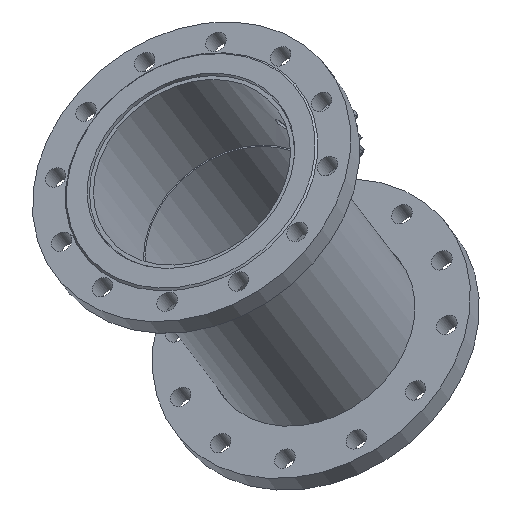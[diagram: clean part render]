
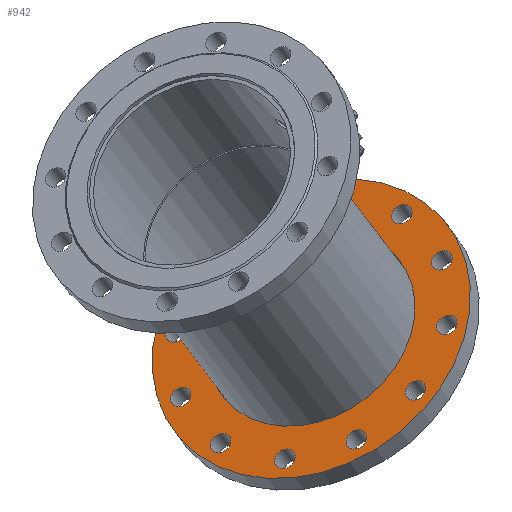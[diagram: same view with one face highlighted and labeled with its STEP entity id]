
A CAD part, isometric view. The second image highlights one B-rep face of the part: STEP entity #942.
In plain terms, the highlighted planar face has unit normal (-0.522, 0, 0.853) as drawn and (0, 0, -1) by its records, which use the part's own axes.
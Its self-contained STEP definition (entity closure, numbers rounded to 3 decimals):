
#942 = ADVANCED_FACE( '', ( #1897, #1898, #1899, #1900, #1901, #1902, #1903, #1904, #1905, #1906, #1907, #1908, #1909, #1910 ), #1911, .T. );
#1897 = FACE_BOUND( '', #5754, .T. );
#1898 = FACE_BOUND( '', #5755, .T. );
#1899 = FACE_BOUND( '', #5756, .T. );
#1900 = FACE_BOUND( '', #5757, .T. );
#1901 = FACE_BOUND( '', #5758, .T. );
#1902 = FACE_BOUND( '', #5759, .T. );
#1903 = FACE_BOUND( '', #5760, .T. );
#1904 = FACE_BOUND( '', #5761, .T. );
#1905 = FACE_BOUND( '', #5762, .T. );
#1906 = FACE_BOUND( '', #5763, .T. );
#1907 = FACE_BOUND( '', #5764, .T. );
#1908 = FACE_BOUND( '', #5765, .T. );
#1909 = FACE_BOUND( '', #5766, .T. );
#1910 = FACE_OUTER_BOUND( '', #5767, .T. );
#1911 = PLANE( '', #5768 );
#5754 = EDGE_LOOP( '', ( #7905 ) );
#5755 = EDGE_LOOP( '', ( #7906 ) );
#5756 = EDGE_LOOP( '', ( #7907 ) );
#5757 = EDGE_LOOP( '', ( #7908 ) );
#5758 = EDGE_LOOP( '', ( #7909 ) );
#5759 = EDGE_LOOP( '', ( #7910 ) );
#5760 = EDGE_LOOP( '', ( #7911 ) );
#5761 = EDGE_LOOP( '', ( #7912 ) );
#5762 = EDGE_LOOP( '', ( #7913 ) );
#5763 = EDGE_LOOP( '', ( #7914 ) );
#5764 = EDGE_LOOP( '', ( #7915 ) );
#5765 = EDGE_LOOP( '', ( #7916 ) );
#5766 = EDGE_LOOP( '', ( #7917 ) );
#5767 = EDGE_LOOP( '', ( #7918 ) );
#5768 = AXIS2_PLACEMENT_3D( '', #7919, #7920, #7921 );
#7905 = ORIENTED_EDGE( '', *, *, #8549, .F. );
#7906 = ORIENTED_EDGE( '', *, *, #8376, .F. );
#7907 = ORIENTED_EDGE( '', *, *, #8527, .F. );
#7908 = ORIENTED_EDGE( '', *, *, #8671, .F. );
#7909 = ORIENTED_EDGE( '', *, *, #8344, .F. );
#7910 = ORIENTED_EDGE( '', *, *, #8406, .F. );
#7911 = ORIENTED_EDGE( '', *, *, #8529, .F. );
#7912 = ORIENTED_EDGE( '', *, *, #8408, .F. );
#7913 = ORIENTED_EDGE( '', *, *, #8359, .F. );
#7914 = ORIENTED_EDGE( '', *, *, #8693, .F. );
#7915 = ORIENTED_EDGE( '', *, *, #8632, .F. );
#7916 = ORIENTED_EDGE( '', *, *, #8758, .F. );
#7917 = ORIENTED_EDGE( '', *, *, #8084, .T. );
#7918 = ORIENTED_EDGE( '', *, *, #8799, .F. );
#7919 = CARTESIAN_POINT( '', ( 110.75, 0., -10.608 ) );
#7920 = DIRECTION( '', ( 0., 0., -1. ) );
#7921 = DIRECTION( '', ( -1., 0., 0. ) );
#8084 = EDGE_CURVE( '', #8911, #8911, #8912, .T. );
#8344 = EDGE_CURVE( '', #9363, #9363, #9364, .T. );
#8359 = EDGE_CURVE( '', #9388, #9388, #9389, .T. );
#8376 = EDGE_CURVE( '', #9415, #9415, #9416, .T. );
#8406 = EDGE_CURVE( '', #9464, #9464, #9465, .T. );
#8408 = EDGE_CURVE( '', #9467, #9467, #9468, .T. );
#8527 = EDGE_CURVE( '', #9649, #9649, #9650, .T. );
#8529 = EDGE_CURVE( '', #9652, #9652, #9653, .T. );
#8549 = EDGE_CURVE( '', #9678, #9678, #9679, .T. );
#8632 = EDGE_CURVE( '', #9788, #9788, #9789, .T. );
#8671 = EDGE_CURVE( '', #9836, #9836, #9837, .T. );
#8693 = EDGE_CURVE( '', #9863, #9863, #9864, .T. );
#8758 = EDGE_CURVE( '', #9941, #9941, #9942, .T. );
#8799 = EDGE_CURVE( '', #9989, #9989, #9990, .T. );
#8911 = VERTEX_POINT( '', #10164 );
#8912 = CIRCLE( '', #10165, 110.75 );
#9363 = VERTEX_POINT( '', #11345 );
#9364 = CIRCLE( '', #11346, 11. );
#9388 = VERTEX_POINT( '', #11383 );
#9389 = CIRCLE( '', #11384, 11. );
#9415 = VERTEX_POINT( '', #11499 );
#9416 = CIRCLE( '', #11500, 11. );
#9464 = VERTEX_POINT( '', #11560 );
#9465 = CIRCLE( '', #11561, 11. );
#9467 = VERTEX_POINT( '', #11563 );
#9468 = CIRCLE( '', #11564, 11. );
#9649 = VERTEX_POINT( '', #11910 );
#9650 = CIRCLE( '', #11911, 11. );
#9652 = VERTEX_POINT( '', #11913 );
#9653 = CIRCLE( '', #11914, 11. );
#9678 = VERTEX_POINT( '', #11977 );
#9679 = CIRCLE( '', #11978, 11. );
#9788 = VERTEX_POINT( '', #12215 );
#9789 = CIRCLE( '', #12216, 11. );
#9836 = VERTEX_POINT( '', #12321 );
#9837 = CIRCLE( '', #12322, 11. );
#9863 = VERTEX_POINT( '', #12408 );
#9864 = CIRCLE( '', #12409, 11. );
#9941 = VERTEX_POINT( '', #12536 );
#9942 = CIRCLE( '', #12537, 11. );
#9989 = VERTEX_POINT( '', #12633 );
#9990 = CIRCLE( '', #12634, 170. );
#10164 = CARTESIAN_POINT( '', ( 110.75, 0., -10.608 ) );
#10165 = AXIS2_PLACEMENT_3D( '', #12814, #12815, #12816 );
#11345 = CARTESIAN_POINT( '', ( 27.176, -142.474, -10.608 ) );
#11346 = AXIS2_PLACEMENT_3D( '', #13224, #13225, #13226 );
#11383 = CARTESIAN_POINT( '', ( 93.298, 104.298, -10.608 ) );
#11384 = AXIS2_PLACEMENT_3D( '', #13245, #13246, #13247 );
#11499 = CARTESIAN_POINT( '', ( -153.474, -38.176, -10.608 ) );
#11500 = AXIS2_PLACEMENT_3D( '', #13270, #13271, #13272 );
#11560 = CARTESIAN_POINT( '', ( 93.298, -104.298, -10.608 ) );
#11561 = AXIS2_PLACEMENT_3D( '', #13315, #13316, #13317 );
#11563 = CARTESIAN_POINT( '', ( 131.474, 38.176, -10.608 ) );
#11564 = AXIS2_PLACEMENT_3D( '', #13318, #13319, #13320 );
#11910 = CARTESIAN_POINT( '', ( -115.298, -104.298, -10.608 ) );
#11911 = AXIS2_PLACEMENT_3D( '', #13498, #13499, #13500 );
#11913 = CARTESIAN_POINT( '', ( 131.474, -38.176, -10.608 ) );
#11914 = AXIS2_PLACEMENT_3D( '', #13501, #13502, #13503 );
#11977 = CARTESIAN_POINT( '', ( -153.474, 38.176, -10.608 ) );
#11978 = AXIS2_PLACEMENT_3D( '', #13519, #13520, #13521 );
#12215 = CARTESIAN_POINT( '', ( -49.176, 142.474, -10.608 ) );
#12216 = AXIS2_PLACEMENT_3D( '', #13619, #13620, #13621 );
#12321 = CARTESIAN_POINT( '', ( -49.176, -142.474, -10.608 ) );
#12322 = AXIS2_PLACEMENT_3D( '', #13673, #13674, #13675 );
#12408 = CARTESIAN_POINT( '', ( 27.176, 142.474, -10.608 ) );
#12409 = AXIS2_PLACEMENT_3D( '', #13696, #13697, #13698 );
#12536 = CARTESIAN_POINT( '', ( -115.298, 104.298, -10.608 ) );
#12537 = AXIS2_PLACEMENT_3D( '', #13766, #13767, #13768 );
#12633 = CARTESIAN_POINT( '', ( 170., 0., -10.608 ) );
#12634 = AXIS2_PLACEMENT_3D( '', #13809, #13810, #13811 );
#12814 = CARTESIAN_POINT( '', ( 0., 0., -10.608 ) );
#12815 = DIRECTION( '', ( 0., 0., 1. ) );
#12816 = DIRECTION( '', ( 1., 0., 0. ) );
#13224 = CARTESIAN_POINT( '', ( 38.176, -142.474, -10.608 ) );
#13225 = DIRECTION( '', ( 0., 0., -1. ) );
#13226 = DIRECTION( '', ( -1., 0., 0. ) );
#13245 = CARTESIAN_POINT( '', ( 104.298, 104.298, -10.608 ) );
#13246 = DIRECTION( '', ( 0., 0., -1. ) );
#13247 = DIRECTION( '', ( -1., 0., 0. ) );
#13270 = CARTESIAN_POINT( '', ( -142.474, -38.176, -10.608 ) );
#13271 = DIRECTION( '', ( 0., 0., -1. ) );
#13272 = DIRECTION( '', ( -1., 0., 0. ) );
#13315 = CARTESIAN_POINT( '', ( 104.298, -104.298, -10.608 ) );
#13316 = DIRECTION( '', ( 0., 0., -1. ) );
#13317 = DIRECTION( '', ( -1., 0., 0. ) );
#13318 = CARTESIAN_POINT( '', ( 142.474, 38.176, -10.608 ) );
#13319 = DIRECTION( '', ( 0., 0., -1. ) );
#13320 = DIRECTION( '', ( -1., 0., 0. ) );
#13498 = CARTESIAN_POINT( '', ( -104.298, -104.298, -10.608 ) );
#13499 = DIRECTION( '', ( 0., 0., -1. ) );
#13500 = DIRECTION( '', ( -1., 0., 0. ) );
#13501 = CARTESIAN_POINT( '', ( 142.474, -38.176, -10.608 ) );
#13502 = DIRECTION( '', ( 0., 0., -1. ) );
#13503 = DIRECTION( '', ( -1., 0., 0. ) );
#13519 = CARTESIAN_POINT( '', ( -142.474, 38.176, -10.608 ) );
#13520 = DIRECTION( '', ( 0., 0., -1. ) );
#13521 = DIRECTION( '', ( -1., 0., 0. ) );
#13619 = CARTESIAN_POINT( '', ( -38.176, 142.474, -10.608 ) );
#13620 = DIRECTION( '', ( 0., 0., -1. ) );
#13621 = DIRECTION( '', ( -1., 0., 0. ) );
#13673 = CARTESIAN_POINT( '', ( -38.176, -142.474, -10.608 ) );
#13674 = DIRECTION( '', ( 0., 0., -1. ) );
#13675 = DIRECTION( '', ( -1., 0., 0. ) );
#13696 = CARTESIAN_POINT( '', ( 38.176, 142.474, -10.608 ) );
#13697 = DIRECTION( '', ( 0., 0., -1. ) );
#13698 = DIRECTION( '', ( -1., 0., 0. ) );
#13766 = CARTESIAN_POINT( '', ( -104.298, 104.298, -10.608 ) );
#13767 = DIRECTION( '', ( 0., 0., -1. ) );
#13768 = DIRECTION( '', ( -1., 0., 0. ) );
#13809 = CARTESIAN_POINT( '', ( 0., 0., -10.608 ) );
#13810 = DIRECTION( '', ( 0., 0., 1. ) );
#13811 = DIRECTION( '', ( 1., 0., 0. ) );
